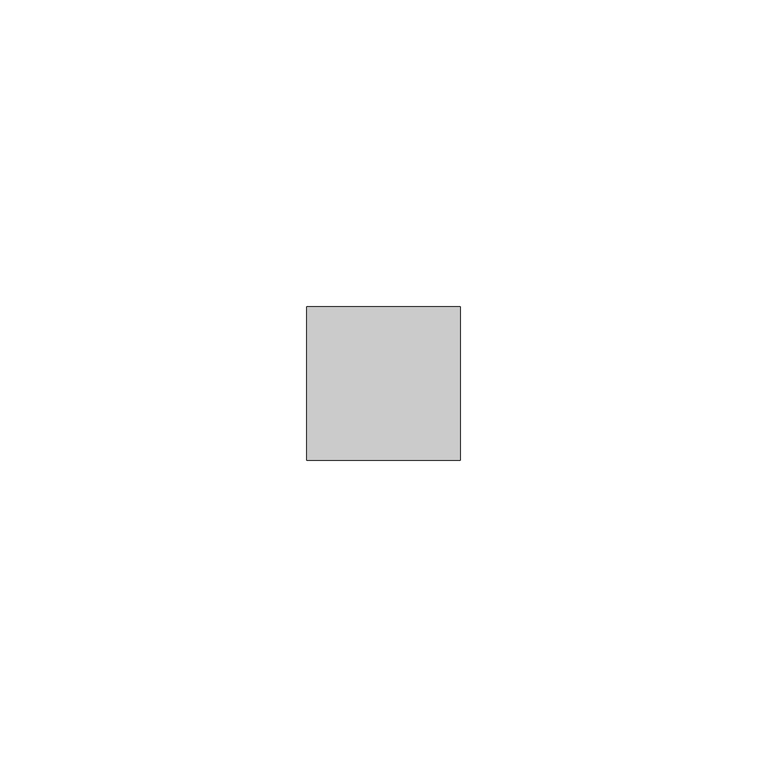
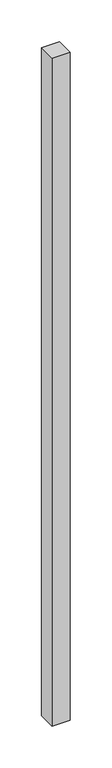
"""IFC4 building model written with IfcOpenShell, lengths in millimetres: member geometry, Obdélníková příčel : VERTI AERO."""

from ifc_helpers import new_model, si_unit, frame, origin, place, context, project, spatial, polyline, outline, extrude, source, transform, mapped, element, save


def member_af766121(model_context):
    return source(origin(), model_context, "Body", "SweptSolid", [
        extrude(outline(polyline([(0.0, 12.5), (0.0, -12.5), (-25.0, -12.5), (-25.0, 12.5), (0.0, 12.5)])), frame((0.0, 0.0, -975.0), z_axis=(0.0, 0.0, 1.0), x_axis=(1.0, 0.0, 0.0)), (0.0, 0.0, 1.0), 975.0),
    ])


if __name__ == "__main__":
    model = new_model("IFC4")
    model_context = context("Model", 3, world=origin())
    ifc_project = project(units=[si_unit("LENGTHUNIT", "METRE", prefix="MILLI")], contexts=[model_context])
    site = spatial("IfcSite", under=ifc_project)
    building = spatial("IfcBuilding", under=site)
    placement = place(None, origin())
    member_shape = member_af766121(model_context)
    element("IfcMember", 1, ObjectType="Obdélníková příčel : VERTI AERO", at=placement, inside=building, context=model_context, shape_type="MappedRepresentation", body=[
        mapped(member_shape, transform((0.0, 0.0, 0.0), x_axis=(1.0, 0.0, 0.0), y_axis=(0.0, 1.0, 0.0), z_axis=(0.0, 0.0, 1.0))),
    ])
    save(model, "model.ifc")
